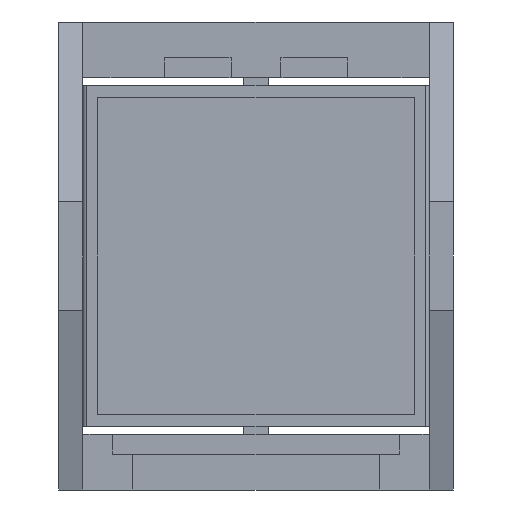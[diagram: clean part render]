
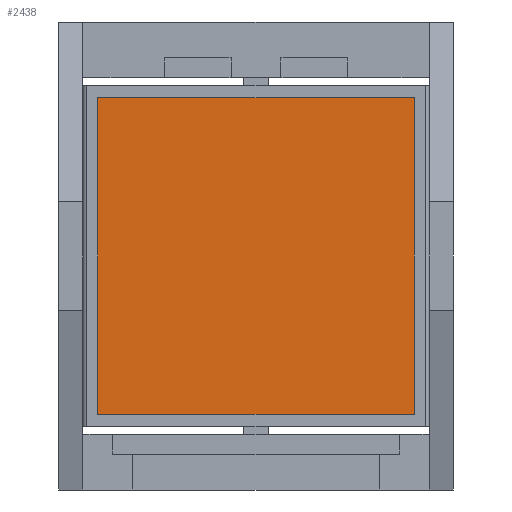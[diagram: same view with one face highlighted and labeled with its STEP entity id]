
A CAD part, front view. The second image highlights one B-rep face of the part: STEP entity #2438.
In plain terms, the highlighted planar face has unit normal (0, -1, 0).
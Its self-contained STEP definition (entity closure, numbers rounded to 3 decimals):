
#283 = CARTESIAN_POINT ( 'NONE',  ( -6.476, -1.976, -9.821 ) ) ;
#552 = AXIS2_PLACEMENT_3D ( 'NONE', #5049, #788, #1190 ) ;
#631 = CARTESIAN_POINT ( 'NONE',  ( -6.476, -1.976, -9.821 ) ) ;
#686 = VERTEX_POINT ( 'NONE', #1704 ) ;
#788 = DIRECTION ( 'NONE',  ( 0., 1., 0. ) ) ;
#798 = LINE ( 'NONE', #2976, #4559 ) ;
#821 = FACE_OUTER_BOUND ( 'NONE', #2101, .T. ) ;
#932 = ORIENTED_EDGE ( 'NONE', *, *, #1159, .F. ) ;
#1159 = EDGE_CURVE ( 'NONE', #2765, #686, #1518, .T. ) ;
#1190 = DIRECTION ( 'NONE',  ( 0., 0., 1. ) ) ;
#1518 = LINE ( 'NONE', #283, #3010 ) ;
#1562 = ORIENTED_EDGE ( 'NONE', *, *, #3818, .F. ) ;
#1704 = CARTESIAN_POINT ( 'NONE',  ( -6.476, -1.976, -9.821 ) ) ;
#1955 = DIRECTION ( 'NONE',  ( -1., 0., 0. ) ) ;
#2101 = EDGE_LOOP ( 'NONE', ( #3957, #932, #3507, #1562 ) ) ;
#2208 = EDGE_CURVE ( 'NONE', #686, #3776, #2276, .T. ) ;
#2222 = VECTOR ( 'NONE', #4707, 1000. ) ;
#2276 = LINE ( 'NONE', #631, #4389 ) ;
#2411 = CARTESIAN_POINT ( 'NONE',  ( -6.476, -1.976, 9.179 ) ) ;
#2438 = ADVANCED_FACE ( 'NONE', ( #821 ), #4140, .F. ) ;
#2439 = DIRECTION ( 'NONE',  ( 1., 0., 0. ) ) ;
#2472 = CARTESIAN_POINT ( 'NONE',  ( 12.524, -1.976, 9.179 ) ) ;
#2765 = VERTEX_POINT ( 'NONE', #4514 ) ;
#2976 = CARTESIAN_POINT ( 'NONE',  ( -6.476, -1.976, 9.179 ) ) ;
#3010 = VECTOR ( 'NONE', #1955, 1000. ) ;
#3365 = CARTESIAN_POINT ( 'NONE',  ( 12.524, -1.976, -9.821 ) ) ;
#3507 = ORIENTED_EDGE ( 'NONE', *, *, #4553, .F. ) ;
#3776 = VERTEX_POINT ( 'NONE', #2411 ) ;
#3818 = EDGE_CURVE ( 'NONE', #3776, #3822, #798, .T. ) ;
#3822 = VERTEX_POINT ( 'NONE', #2472 ) ;
#3957 = ORIENTED_EDGE ( 'NONE', *, *, #2208, .F. ) ;
#4140 = PLANE ( 'NONE',  #552 ) ;
#4389 = VECTOR ( 'NONE', #4911, 1000. ) ;
#4514 = CARTESIAN_POINT ( 'NONE',  ( 12.524, -1.976, -9.821 ) ) ;
#4553 = EDGE_CURVE ( 'NONE', #3822, #2765, #5108, .T. ) ;
#4559 = VECTOR ( 'NONE', #2439, 1000. ) ;
#4707 = DIRECTION ( 'NONE',  ( 0., 0., -1. ) ) ;
#4911 = DIRECTION ( 'NONE',  ( 0., 0., 1. ) ) ;
#5049 = CARTESIAN_POINT ( 'NONE',  ( -6.476, -1.976, 9.179 ) ) ;
#5108 = LINE ( 'NONE', #3365, #2222 ) ;
